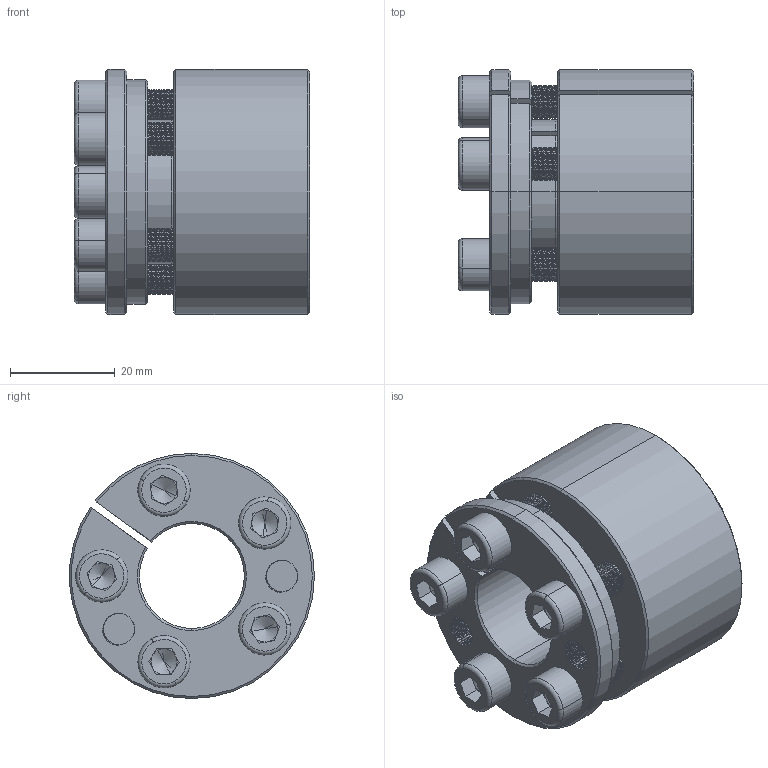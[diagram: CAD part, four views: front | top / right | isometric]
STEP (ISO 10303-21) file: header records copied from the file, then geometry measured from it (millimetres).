
FILE_DESCRIPTION (( 'STEP AP214' ), '1' );
FILE_NAME ('PL-H2 20-47.STEP', '2022-07-26T00:55:28', ( '' ), ( '' ), 'SwSTEP 2.0', 'SolidWorks 2022', '' );
FILE_SCHEMA (( 'AUTOMOTIVE_DESIGN' ));
Length unit declared in the file: millimetre
Products named in the file (1): PL-H2 20-47
Bounding box: 45 x 46.86 x 46.92 mm (x, y, z)
Volume: 47080.7 mm3; surface area: 18949.6 mm2
Topology: 1 solids, 1 shells, 654 faces, 1833 edges, 1191 vertices
Faces by surface type: cylinder 472, plane 95, cone 56, bspline 21, torus 10
Entity records: 47171 total; most frequent: CARTESIAN_POINT 30981, ORIENTED_EDGE 3646, DIRECTION 2432, EDGE_CURVE 1823, VERTEX_POINT 1191, AXIS2_PLACEMENT_3D 874, EDGE_LOOP 688, LINE 684
